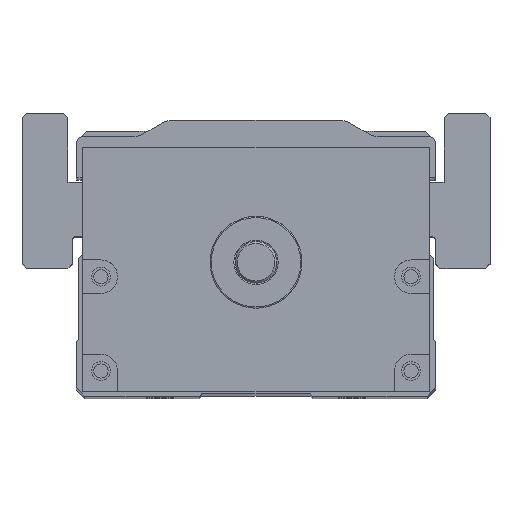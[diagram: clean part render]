
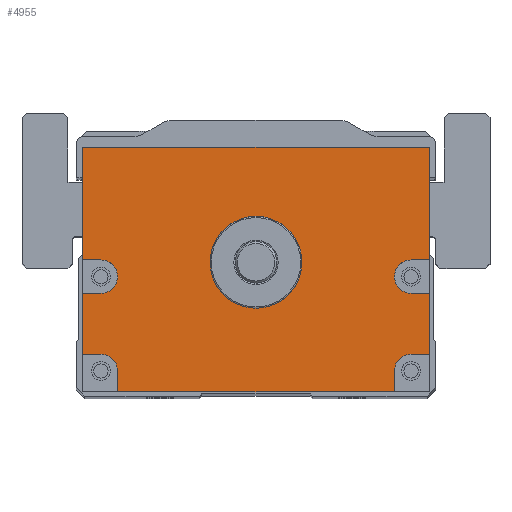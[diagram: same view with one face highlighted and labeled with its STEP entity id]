
A CAD part, top view. The second image highlights one B-rep face of the part: STEP entity #4955.
In plain terms, the highlighted planar face has unit normal (0, 0, 1).
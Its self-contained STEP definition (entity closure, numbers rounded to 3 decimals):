
#3662=FACE_BOUND('',#6574,.T.);
#3663=FACE_BOUND('',#6575,.T.);
#4154=CIRCLE('',#14957,11.);
#4165=CIRCLE('',#14971,4.);
#4166=CIRCLE('',#14972,4.);
#4167=CIRCLE('',#14973,4.);
#4168=CIRCLE('',#14974,4.);
#4955=ADVANCED_FACE('',(#3662,#3663),#5441,.T.);
#5441=PLANE('',#14975);
#6574=EDGE_LOOP('',(#8917,#8918,#8919,#8920,#8921,#8922,#8923,#8924,#8925,
#8926,#8927,#8928,#8929,#8930,#8931,#8932,#8933,#8934));
#6575=EDGE_LOOP('',(#8935));
#8917=ORIENTED_EDGE('',*,*,#12071,.F.);
#8918=ORIENTED_EDGE('',*,*,#12072,.T.);
#8919=ORIENTED_EDGE('',*,*,#12073,.F.);
#8920=ORIENTED_EDGE('',*,*,#12074,.F.);
#8921=ORIENTED_EDGE('',*,*,#12075,.F.);
#8922=ORIENTED_EDGE('',*,*,#12076,.T.);
#8923=ORIENTED_EDGE('',*,*,#12067,.T.);
#8924=ORIENTED_EDGE('',*,*,#12077,.T.);
#8925=ORIENTED_EDGE('',*,*,#12078,.F.);
#8926=ORIENTED_EDGE('',*,*,#12079,.F.);
#8927=ORIENTED_EDGE('',*,*,#12080,.F.);
#8928=ORIENTED_EDGE('',*,*,#12081,.T.);
#8929=ORIENTED_EDGE('',*,*,#12082,.F.);
#8930=ORIENTED_EDGE('',*,*,#12083,.F.);
#8931=ORIENTED_EDGE('',*,*,#12084,.F.);
#8932=ORIENTED_EDGE('',*,*,#12085,.T.);
#8933=ORIENTED_EDGE('',*,*,#12086,.F.);
#8934=ORIENTED_EDGE('',*,*,#12087,.F.);
#8935=ORIENTED_EDGE('',*,*,#12053,.T.);
#10673=VERTEX_POINT('',#21131);
#10686=VERTEX_POINT('',#21159);
#10687=VERTEX_POINT('',#21161);
#10690=VERTEX_POINT('',#21169);
#10691=VERTEX_POINT('',#21170);
#10692=VERTEX_POINT('',#21172);
#10693=VERTEX_POINT('',#21174);
#10694=VERTEX_POINT('',#21176);
#10695=VERTEX_POINT('',#21178);
#10696=VERTEX_POINT('',#21181);
#10697=VERTEX_POINT('',#21183);
#10698=VERTEX_POINT('',#21185);
#10699=VERTEX_POINT('',#21187);
#10700=VERTEX_POINT('',#21189);
#10701=VERTEX_POINT('',#21191);
#10702=VERTEX_POINT('',#21193);
#10703=VERTEX_POINT('',#21195);
#10704=VERTEX_POINT('',#21197);
#10705=VERTEX_POINT('',#21199);
#12053=EDGE_CURVE('',#10673,#10673,#4154,.T.);
#12067=EDGE_CURVE('',#10687,#10686,#13197,.T.);
#12071=EDGE_CURVE('',#10690,#10691,#13199,.T.);
#12072=EDGE_CURVE('',#10690,#10692,#13200,.T.);
#12073=EDGE_CURVE('',#10693,#10692,#13201,.T.);
#12074=EDGE_CURVE('',#10694,#10693,#4165,.T.);
#12075=EDGE_CURVE('',#10695,#10694,#13202,.T.);
#12076=EDGE_CURVE('',#10695,#10687,#13203,.T.);
#12077=EDGE_CURVE('',#10686,#10696,#13204,.T.);
#12078=EDGE_CURVE('',#10697,#10696,#13205,.T.);
#12079=EDGE_CURVE('',#10698,#10697,#4166,.T.);
#12080=EDGE_CURVE('',#10699,#10698,#13206,.T.);
#12081=EDGE_CURVE('',#10699,#10700,#13207,.T.);
#12082=EDGE_CURVE('',#10701,#10700,#13208,.T.);
#12083=EDGE_CURVE('',#10702,#10701,#4167,.T.);
#12084=EDGE_CURVE('',#10703,#10702,#13209,.T.);
#12085=EDGE_CURVE('',#10703,#10704,#13210,.T.);
#12086=EDGE_CURVE('',#10705,#10704,#13211,.T.);
#12087=EDGE_CURVE('',#10691,#10705,#4168,.T.);
#13197=LINE('',#21160,#14029);
#13199=LINE('',#21168,#14031);
#13200=LINE('',#21171,#14032);
#13201=LINE('',#21173,#14033);
#13202=LINE('',#21177,#14034);
#13203=LINE('',#21179,#14035);
#13204=LINE('',#21180,#14036);
#13205=LINE('',#21182,#14037);
#13206=LINE('',#21186,#14038);
#13207=LINE('',#21188,#14039);
#13208=LINE('',#21190,#14040);
#13209=LINE('',#21194,#14041);
#13210=LINE('',#21196,#14042);
#13211=LINE('',#21198,#14043);
#14029=VECTOR('',#17391,1.);
#14031=VECTOR('',#17399,1.);
#14032=VECTOR('',#17400,1.);
#14033=VECTOR('',#17401,1.);
#14034=VECTOR('',#17404,1.);
#14035=VECTOR('',#17405,1.);
#14036=VECTOR('',#17406,1.);
#14037=VECTOR('',#17407,1.);
#14038=VECTOR('',#17410,1.);
#14039=VECTOR('',#17411,1.);
#14040=VECTOR('',#17412,1.);
#14041=VECTOR('',#17415,1.);
#14042=VECTOR('',#17416,1.);
#14043=VECTOR('',#17417,1.);
#14957=AXIS2_PLACEMENT_3D('',#21130,#17364,#17365);
#14971=AXIS2_PLACEMENT_3D('',#21175,#17402,#17403);
#14972=AXIS2_PLACEMENT_3D('',#21184,#17408,#17409);
#14973=AXIS2_PLACEMENT_3D('',#21192,#17413,#17414);
#14974=AXIS2_PLACEMENT_3D('',#21200,#17418,#17419);
#14975=AXIS2_PLACEMENT_3D('',#21201,#17420,#17421);
#17364=DIRECTION('',(0.,0.,-1.));
#17365=DIRECTION('',(1.,0.,0.));
#17391=DIRECTION('',(-1.,0.,0.));
#17399=DIRECTION('',(-1.,0.,0.));
#17400=DIRECTION('',(0.,1.,0.));
#17401=DIRECTION('',(1.,0.,0.));
#17402=DIRECTION('',(0.,0.,1.));
#17403=DIRECTION('',(1.,0.,0.));
#17404=DIRECTION('',(-1.,0.,0.));
#17405=DIRECTION('',(0.,1.,0.));
#17406=DIRECTION('',(0.,-1.,0.));
#17407=DIRECTION('',(-1.,0.,0.));
#17408=DIRECTION('',(0.,0.,1.));
#17409=DIRECTION('',(1.,0.,0.));
#17410=DIRECTION('',(1.,0.,0.));
#17411=DIRECTION('',(0.,-1.,0.));
#17412=DIRECTION('',(-1.,0.,0.));
#17413=DIRECTION('',(0.,0.,1.));
#17414=DIRECTION('',(1.,0.,0.));
#17415=DIRECTION('',(0.,1.,0.));
#17416=DIRECTION('',(1.,0.,0.));
#17417=DIRECTION('',(0.,-1.,0.));
#17418=DIRECTION('',(0.,0.,1.));
#17419=DIRECTION('',(1.,0.,0.));
#17420=DIRECTION('',(0.,0.,1.));
#17421=DIRECTION('',(1.,0.,0.));
#21130=CARTESIAN_POINT('',(750.,0.,182.5));
#21131=CARTESIAN_POINT('',(761.,0.,182.5));
#21159=CARTESIAN_POINT('',(708.5,27.5,182.5));
#21160=CARTESIAN_POINT('',(791.5,27.5,182.5));
#21161=CARTESIAN_POINT('',(791.5,27.5,182.5));
#21168=CARTESIAN_POINT('',(791.5,-22.,182.5));
#21169=CARTESIAN_POINT('',(791.5,-22.,182.5));
#21170=CARTESIAN_POINT('',(787.115,-22.,182.5));
#21171=CARTESIAN_POINT('',(791.5,-31.,182.5));
#21172=CARTESIAN_POINT('',(791.5,-7.431,182.5));
#21173=CARTESIAN_POINT('',(791.5,-7.431,182.5));
#21174=CARTESIAN_POINT('',(787.115,-7.431,182.5));
#21175=CARTESIAN_POINT('',(787.115,-3.431,182.5));
#21176=CARTESIAN_POINT('',(787.115,0.569,182.5));
#21177=CARTESIAN_POINT('',(791.5,0.569,182.5));
#21178=CARTESIAN_POINT('',(791.5,0.569,182.5));
#21179=CARTESIAN_POINT('',(791.5,-31.,182.5));
#21180=CARTESIAN_POINT('',(708.5,27.5,182.5));
#21181=CARTESIAN_POINT('',(708.5,0.569,182.5));
#21182=CARTESIAN_POINT('',(791.5,0.569,182.5));
#21183=CARTESIAN_POINT('',(712.885,0.569,182.5));
#21184=CARTESIAN_POINT('',(712.885,-3.431,182.5));
#21185=CARTESIAN_POINT('',(712.885,-7.431,182.5));
#21186=CARTESIAN_POINT('',(791.5,-7.431,182.5));
#21187=CARTESIAN_POINT('',(708.5,-7.431,182.5));
#21188=CARTESIAN_POINT('',(708.5,27.5,182.5));
#21189=CARTESIAN_POINT('',(708.5,-22.,182.5));
#21190=CARTESIAN_POINT('',(791.5,-22.,182.5));
#21191=CARTESIAN_POINT('',(712.885,-22.,182.5));
#21192=CARTESIAN_POINT('',(712.885,-26.,182.5));
#21193=CARTESIAN_POINT('',(716.885,-26.,182.5));
#21194=CARTESIAN_POINT('',(716.885,-31.,182.5));
#21195=CARTESIAN_POINT('',(716.885,-31.,182.5));
#21196=CARTESIAN_POINT('',(708.5,-31.,182.5));
#21197=CARTESIAN_POINT('',(783.115,-31.,182.5));
#21198=CARTESIAN_POINT('',(783.115,-31.,182.5));
#21199=CARTESIAN_POINT('',(783.115,-26.,182.5));
#21200=CARTESIAN_POINT('',(787.115,-26.,182.5));
#21201=CARTESIAN_POINT('',(791.5,-31.,182.5));
